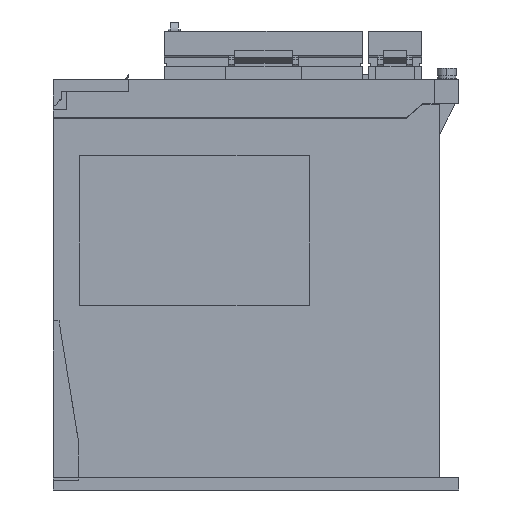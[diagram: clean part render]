
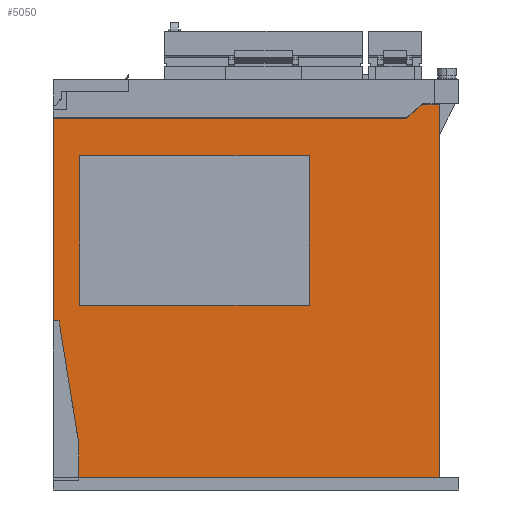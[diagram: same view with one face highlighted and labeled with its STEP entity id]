
A CAD part, left-side view. The second image highlights one B-rep face of the part: STEP entity #5050.
In plain terms, the highlighted planar face has unit normal (-1, 0, 0).
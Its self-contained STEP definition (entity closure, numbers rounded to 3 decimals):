
#57 = VERTEX_POINT ( 'NONE', #18492 ) ;
#1132 = ORIENTED_EDGE ( 'NONE', *, *, #5084, .T. ) ;
#2603 = VERTEX_POINT ( 'NONE', #22946 ) ;
#2605 = EDGE_CURVE ( 'NONE', #2603, #2606, #22945, .T. ) ;
#2606 = VERTEX_POINT ( 'NONE', #22941 ) ;
#2784 = VERTEX_POINT ( 'NONE', #23271 ) ;
#2786 = EDGE_CURVE ( 'NONE', #2784, #2787, #23270, .T. ) ;
#2787 = VERTEX_POINT ( 'NONE', #23266 ) ;
#3100 = VERTEX_POINT ( 'NONE', #23822 ) ;
#3157 = VERTEX_POINT ( 'NONE', #23923 ) ;
#3159 = EDGE_CURVE ( 'NONE', #3100, #3157, #23922, .T. ) ;
#5050 = ADVANCED_FACE ( 'NONE', ( #27281, #27280 ), #27279, .F. ) ;
#5051 = EDGE_LOOP ( 'NONE', ( #5107, #5111, #5114, #5117 ) ) ;
#5084 = EDGE_CURVE ( 'NONE', #57, #2606, #27347, .T. ) ;
#5095 = ORIENTED_EDGE ( 'NONE', *, *, #5096, .F. ) ;
#5096 = EDGE_CURVE ( 'NONE', #5097, #2603, #27389, .T. ) ;
#5097 = VERTEX_POINT ( 'NONE', #27385 ) ;
#5098 = ORIENTED_EDGE ( 'NONE', *, *, #5099, .F. ) ;
#5099 = EDGE_CURVE ( 'NONE', #5100, #5097, #27384, .T. ) ;
#5100 = VERTEX_POINT ( 'NONE', #27380 ) ;
#5101 = ORIENTED_EDGE ( 'NONE', *, *, #5102, .F. ) ;
#5102 = EDGE_CURVE ( 'NONE', #3100, #5100, #27379, .T. ) ;
#5103 = ORIENTED_EDGE ( 'NONE', *, *, #3159, .T. ) ;
#5104 = ORIENTED_EDGE ( 'NONE', *, *, #5105, .T. ) ;
#5105 = EDGE_CURVE ( 'NONE', #3157, #2787, #27375, .T. ) ;
#5106 = ORIENTED_EDGE ( 'NONE', *, *, #2786, .F. ) ;
#5107 = ORIENTED_EDGE ( 'NONE', *, *, #5108, .F. ) ;
#5108 = EDGE_CURVE ( 'NONE', #5109, #5110, #27371, .T. ) ;
#5109 = VERTEX_POINT ( 'NONE', #27366 ) ;
#5110 = VERTEX_POINT ( 'NONE', #27365 ) ;
#5111 = ORIENTED_EDGE ( 'NONE', *, *, #5112, .F. ) ;
#5112 = EDGE_CURVE ( 'NONE', #5113, #5109, #27364, .T. ) ;
#5113 = VERTEX_POINT ( 'NONE', #27359 ) ;
#5114 = ORIENTED_EDGE ( 'NONE', *, *, #5115, .F. ) ;
#5115 = EDGE_CURVE ( 'NONE', #5116, #5113, #25756, .T. ) ;
#5116 = VERTEX_POINT ( 'NONE', #27419 ) ;
#5117 = ORIENTED_EDGE ( 'NONE', *, *, #5118, .F. ) ;
#5118 = EDGE_CURVE ( 'NONE', #5110, #5116, #27418, .T. ) ;
#5119 = EDGE_LOOP ( 'NONE', ( #5120, #5095, #5098, #5101, #5103, #5104, #5106, #5171, #1132 ) ) ;
#5120 = ORIENTED_EDGE ( 'NONE', *, *, #2605, .F. ) ;
#5171 = ORIENTED_EDGE ( 'NONE', *, *, #5172, .T. ) ;
#5172 = EDGE_CURVE ( 'NONE', #2784, #57, #27457, .T. ) ;
#18492 = CARTESIAN_POINT ( 'NONE',  ( -5., -5.5, 5.2 ) ) ;
#21379 = VECTOR ( 'NONE', #21888, 1000. ) ;
#21888 = DIRECTION ( 'NONE',  ( 0., 1., 0. ) ) ;
#22941 = CARTESIAN_POINT ( 'NONE',  ( -5., -155., 5.2 ) ) ;
#22942 = DIRECTION ( 'NONE',  ( 0., 0., -1. ) ) ;
#22943 = VECTOR ( 'NONE', #22942, 1000. ) ;
#22944 = CARTESIAN_POINT ( 'NONE',  ( -5., -155., 318.924 ) ) ;
#22945 = LINE ( 'NONE', #22944, #22943 ) ;
#22946 = CARTESIAN_POINT ( 'NONE',  ( -5., -155., 159.8 ) ) ;
#23266 = CARTESIAN_POINT ( 'NONE',  ( -5., 2.577, 70. ) ) ;
#23267 = DIRECTION ( 'NONE',  ( 0., 0.159, 0.987 ) ) ;
#23268 = VECTOR ( 'NONE', #23267, 1000. ) ;
#23269 = CARTESIAN_POINT ( 'NONE',  ( -5., -5.5, 20. ) ) ;
#23270 = LINE ( 'NONE', #23269, #23268 ) ;
#23271 = CARTESIAN_POINT ( 'NONE',  ( -5., -5.5, 20. ) ) ;
#23822 = CARTESIAN_POINT ( 'NONE',  ( -5., 5., 154. ) ) ;
#23919 = DIRECTION ( 'NONE',  ( 0., 0., -1. ) ) ;
#23920 = VECTOR ( 'NONE', #23919, 1000. ) ;
#23921 = CARTESIAN_POINT ( 'NONE',  ( -5., 5., 318.924 ) ) ;
#23922 = LINE ( 'NONE', #23921, #23920 ) ;
#23923 = CARTESIAN_POINT ( 'NONE',  ( -5., 5., 70. ) ) ;
#25756 = LINE ( 'NONE', #26291, #21379 ) ;
#26291 = CARTESIAN_POINT ( 'NONE',  ( -5., -6., 138.5 ) ) ;
#27275 = DIRECTION ( 'NONE',  ( 0., 1., 0. ) ) ;
#27276 = DIRECTION ( 'NONE',  ( 1., 0., 0. ) ) ;
#27277 = CARTESIAN_POINT ( 'NONE',  ( -5., 5., 318.924 ) ) ;
#27278 = AXIS2_PLACEMENT_3D ( 'NONE', #27277, #27276, #27275 ) ;
#27279 = PLANE ( 'NONE',  #27278 ) ;
#27280 = FACE_OUTER_BOUND ( 'NONE', #5119, .T. ) ;
#27281 = FACE_BOUND ( 'NONE', #5051, .T. ) ;
#27344 = DIRECTION ( 'NONE',  ( 0., -1., 0. ) ) ;
#27345 = VECTOR ( 'NONE', #27344, 1000. ) ;
#27346 = CARTESIAN_POINT ( 'NONE',  ( -5., -5.5, 5.2 ) ) ;
#27347 = LINE ( 'NONE', #27346, #27345 ) ;
#27359 = CARTESIAN_POINT ( 'NONE',  ( -5., -6., 138.5 ) ) ;
#27361 = DIRECTION ( 'NONE',  ( 0., 0., -1. ) ) ;
#27362 = VECTOR ( 'NONE', #27361, 1000. ) ;
#27363 = CARTESIAN_POINT ( 'NONE',  ( -5., -6., 76.5 ) ) ;
#27364 = LINE ( 'NONE', #27363, #27362 ) ;
#27365 = CARTESIAN_POINT ( 'NONE',  ( -5., -101., 76.5 ) ) ;
#27366 = CARTESIAN_POINT ( 'NONE',  ( -5., -6., 76.5 ) ) ;
#27367 = DIRECTION ( 'NONE',  ( 0., -1., 0. ) ) ;
#27368 = VECTOR ( 'NONE', #27367, 1000. ) ;
#27369 = CARTESIAN_POINT ( 'NONE',  ( -5., -6., 76.5 ) ) ;
#27371 = LINE ( 'NONE', #27369, #27368 ) ;
#27372 = DIRECTION ( 'NONE',  ( 0., -1., 0. ) ) ;
#27373 = VECTOR ( 'NONE', #27372, 1000. ) ;
#27374 = CARTESIAN_POINT ( 'NONE',  ( -5., 5., 70. ) ) ;
#27375 = LINE ( 'NONE', #27374, #27373 ) ;
#27376 = DIRECTION ( 'NONE',  ( 0., -1., 0. ) ) ;
#27377 = VECTOR ( 'NONE', #27376, 1000. ) ;
#27378 = CARTESIAN_POINT ( 'NONE',  ( -5., 13.365, 154. ) ) ;
#27379 = LINE ( 'NONE', #27378, #27377 ) ;
#27380 = CARTESIAN_POINT ( 'NONE',  ( -5., -141.328, 154. ) ) ;
#27381 = DIRECTION ( 'NONE',  ( 0., -0.755, 0.656 ) ) ;
#27382 = VECTOR ( 'NONE', #27381, 1000. ) ;
#27383 = CARTESIAN_POINT ( 'NONE',  ( -5., -141.328, 154. ) ) ;
#27384 = LINE ( 'NONE', #27383, #27382 ) ;
#27385 = CARTESIAN_POINT ( 'NONE',  ( -5., -148., 159.8 ) ) ;
#27386 = DIRECTION ( 'NONE',  ( 0., -1., 0. ) ) ;
#27387 = VECTOR ( 'NONE', #27386, 1000. ) ;
#27388 = CARTESIAN_POINT ( 'NONE',  ( -5., -153., 159.8 ) ) ;
#27389 = LINE ( 'NONE', #27388, #27387 ) ;
#27415 = DIRECTION ( 'NONE',  ( 0., 0., 1. ) ) ;
#27416 = VECTOR ( 'NONE', #27415, 1000. ) ;
#27417 = CARTESIAN_POINT ( 'NONE',  ( -5., -101., 76.5 ) ) ;
#27418 = LINE ( 'NONE', #27417, #27416 ) ;
#27419 = CARTESIAN_POINT ( 'NONE',  ( -5., -101., 138.5 ) ) ;
#27453 = DIRECTION ( 'NONE',  ( 0., 0., -1. ) ) ;
#27455 = VECTOR ( 'NONE', #27453, 1000. ) ;
#27456 = CARTESIAN_POINT ( 'NONE',  ( -5., -5.5, 20. ) ) ;
#27457 = LINE ( 'NONE', #27456, #27455 ) ;
